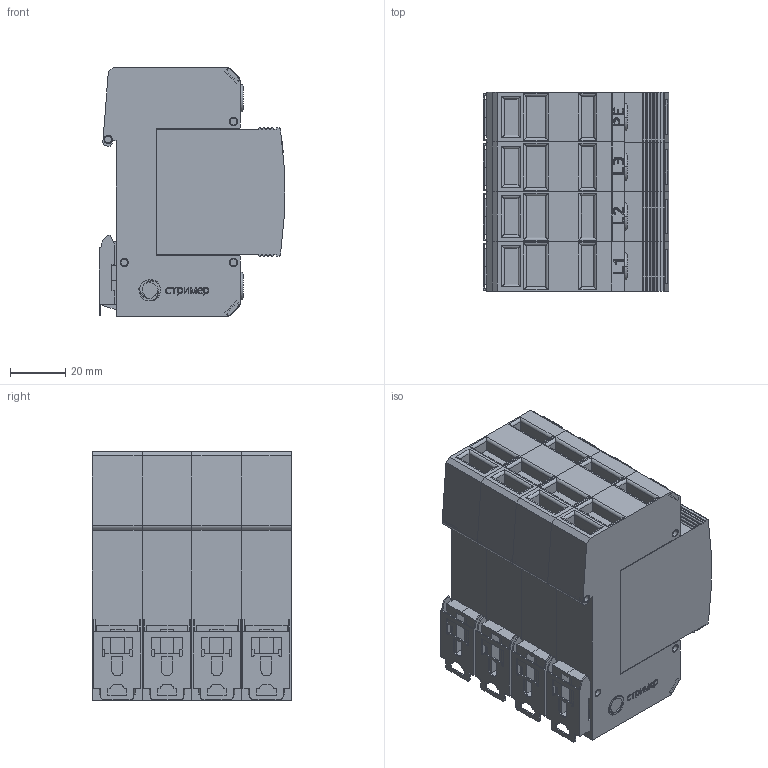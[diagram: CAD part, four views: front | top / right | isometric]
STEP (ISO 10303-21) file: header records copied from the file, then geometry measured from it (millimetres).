
FILE_DESCRIPTION(('TFLEX Exchange Step'),'2;1');
FILE_NAME('X2\041004400442\X0\.114_003.stp', '2022-07-15T15:49:28+03:00',('Pavel Oborin'),('Unknown organisation'),'TFLEX Exchange 2019.2','T-FLEX CAD','Unknown authorisation');
FILE_SCHEMA( ('AUTOMOTIVE_DESIGN { 1 0 10303 214 1 1 1 1 }') );
Length unit declared in the file: millimetre
Products named in the file (22): 0; Буква PE; Буква L3; Буква L2; Буква L1; буква N:8; буква N:7; Планка:4; ВНЕШНИЙ МОДУЛЬ 18 без ушек:4; Корпус 18 без ушей:48; Корпус 18 без ушей:47; Корпус 18 без ушей:46; Корпус 18 без ушей:45; Корпус 18 без ушей:44; Корпус 18 без ушей:43; Корпус 18 без ушей:42; Корпус 18 без ушей:41; Корпус 18 без ушей:40; Корпус 18 без ушей:39; Корпус 18 без ушей:38; Корпус 18 без ушей:37; Арт.114_003
Assembly tree (69 placements, depth 2):
  Арт.114_003
    0
    Буква PE
    Буква L3
    Буква L2
    Буква L1
    буква N:8  x4
    буква N:7  x4
    Планка:4  x4
    ВНЕШНИЙ МОДУЛЬ 18 без ушек:4  x4
    Корпус 18 без ушей:48  x4
    Корпус 18 без ушей:47  x4
    Корпус 18 без ушей:46  x4
    Корпус 18 без ушей:45  x4
    Корпус 18 без ушей:44  x4
    Корпус 18 без ушей:43  x4
    Корпус 18 без ушей:42  x4
    Корпус 18 без ушей:41  x4
    Корпус 18 без ушей:40  x4
    Корпус 18 без ушей:39  x4
    Корпус 18 без ушей:38  x4
    Корпус 18 без ушей:37  x4
Bounding box: 66.98 x 72.1 x 90.16 mm (x, y, z)
Volume: 344561.4 mm3; surface area: 96559.5 mm2
Topology: 120 solids, 120 shells, 1990 faces, 4887 edges, 3173 vertices
Faces by surface type: plane 1236, cylinder 480, bspline 258, torus 16
Entity records: 37202 total; most frequent: CARTESIAN_POINT 19694, ORIENTED_EDGE 3600, DIRECTION 3186, EDGE_CURVE 1800, VECTOR 1220, LINE 1220, VERTEX_POINT 1151, AXIS2_PLACEMENT_3D 983
